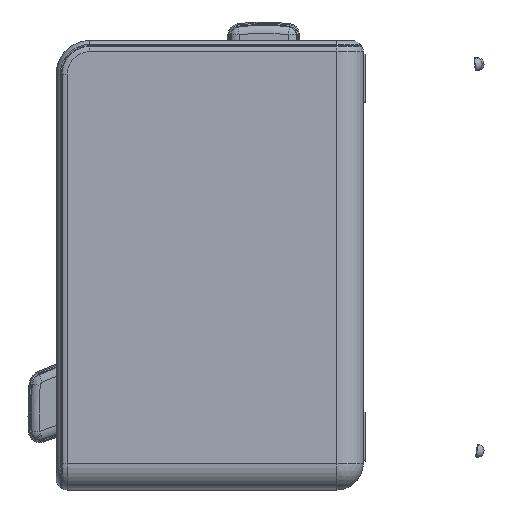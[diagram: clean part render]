
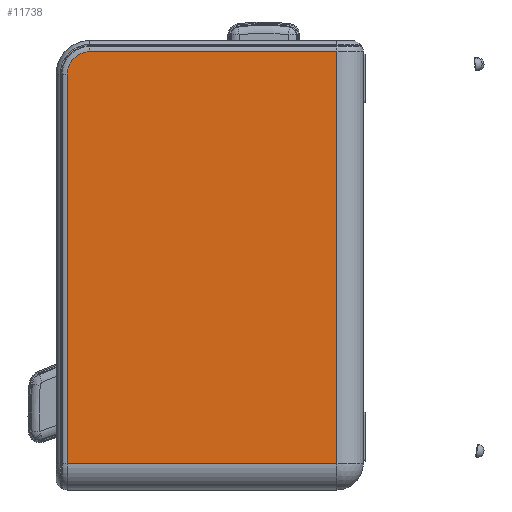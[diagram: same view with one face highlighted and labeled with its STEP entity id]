
A CAD part, left-side view. The second image highlights one B-rep face of the part: STEP entity #11738.
In plain terms, the highlighted planar face has unit normal (-1, 0, 0).
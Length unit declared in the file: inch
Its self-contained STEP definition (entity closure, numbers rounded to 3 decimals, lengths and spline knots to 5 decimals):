
#409=PLANE('',#12962);
#1024=FACE_OUTER_BOUND('',#1897,.T.);
#1897=EDGE_LOOP('',(#8677,#8678,#8679,#8680,#8681));
#2800=CIRCLE('',#12936,1.5);
#3765=LINE('',#20250,#4322);
#3766=LINE('',#20259,#4323);
#3773=LINE('',#20297,#4330);
#3775=LINE('',#20303,#4332);
#4322=VECTOR('',#15632,0.3937);
#4323=VECTOR('',#15645,0.3937);
#4330=VECTOR('',#15692,0.3937);
#4332=VECTOR('',#15702,0.3937);
#5069=VERTEX_POINT('',#20247);
#5070=VERTEX_POINT('',#20249);
#5071=VERTEX_POINT('',#20253);
#5072=VERTEX_POINT('',#20257);
#5083=VERTEX_POINT('',#20295);
#6316=EDGE_CURVE('',#5069,#5070,#3765,.T.);
#6319=EDGE_CURVE('',#5071,#5069,#2800,.T.);
#6321=EDGE_CURVE('',#5072,#5071,#3766,.T.);
#6340=EDGE_CURVE('',#5083,#5072,#3773,.T.);
#6343=EDGE_CURVE('',#5070,#5083,#3775,.T.);
#8677=ORIENTED_EDGE('',*,*,#6343,.F.);
#8678=ORIENTED_EDGE('',*,*,#6316,.F.);
#8679=ORIENTED_EDGE('',*,*,#6319,.F.);
#8680=ORIENTED_EDGE('',*,*,#6321,.F.);
#8681=ORIENTED_EDGE('',*,*,#6340,.F.);
#11738=ADVANCED_FACE('',(#1024),#409,.T.);
#12936=AXIS2_PLACEMENT_3D('',#20255,#15639,#15640);
#12962=AXIS2_PLACEMENT_3D('',#20302,#15700,#15701);
#15632=DIRECTION('',(0.,-1.,0.));
#15639=DIRECTION('center_axis',(1.,0.,0.));
#15640=DIRECTION('ref_axis',(0.,0.707,0.707));
#15645=DIRECTION('',(0.,0.,1.));
#15692=DIRECTION('',(0.,1.,0.));
#15700=DIRECTION('center_axis',(-1.,0.,0.));
#15701=DIRECTION('ref_axis',(0.,0.,1.));
#15702=DIRECTION('',(0.,0.,-1.));
#20247=CARTESIAN_POINT('',(179.27525,18.25,29.25));
#20249=CARTESIAN_POINT('',(179.27525,1.75,29.25));
#20250=CARTESIAN_POINT('',(179.27525,5.125,29.25));
#20253=CARTESIAN_POINT('',(179.27525,19.75,27.75));
#20255=CARTESIAN_POINT('Origin',(179.27525,18.25,27.75));
#20257=CARTESIAN_POINT('',(179.27525,19.75,1.75));
#20259=CARTESIAN_POINT('',(179.27525,19.75,22.5));
#20295=CARTESIAN_POINT('',(179.27525,1.75,1.75));
#20297=CARTESIAN_POINT('',(179.27525,15.375,1.75));
#20302=CARTESIAN_POINT('Origin',(179.27525,10.25,15.));
#20303=CARTESIAN_POINT('',(179.27525,1.75,7.5));
